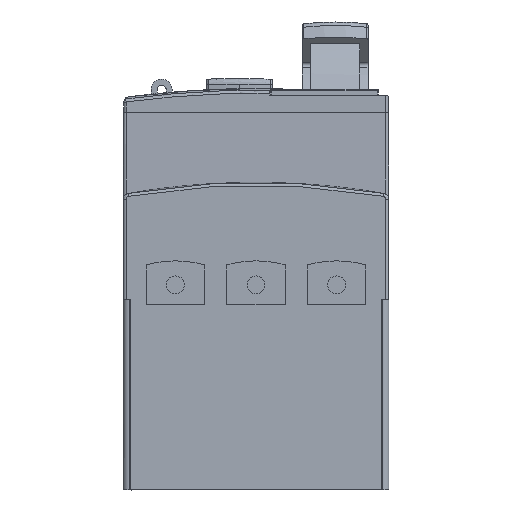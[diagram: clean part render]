
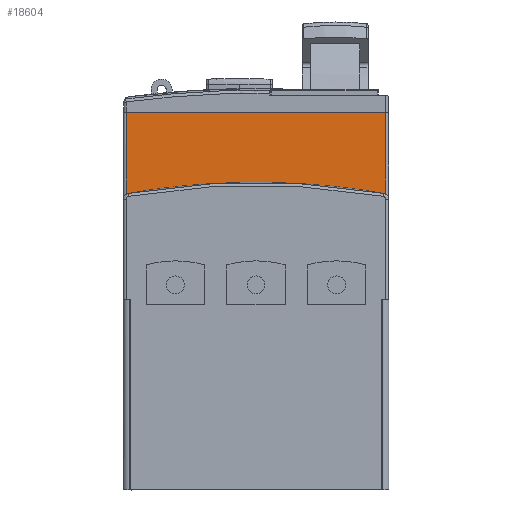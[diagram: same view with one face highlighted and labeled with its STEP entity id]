
A CAD part, front view. The second image highlights one B-rep face of the part: STEP entity #18604.
In plain terms, the highlighted planar face has unit normal (0, -1, 0.006).
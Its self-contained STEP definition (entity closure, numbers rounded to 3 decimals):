
#18594=AXIS2_PLACEMENT_3D('Plane Axis2P3D',#18591,#18592,#18593) ;
#722=CARTESIAN_POINT('Vertex',(21.422,-22.595,29.247)) ;
#728=CARTESIAN_POINT('Control Point',(21.422,-22.594,29.247)) ;
#729=CARTESIAN_POINT('Control Point',(10.817,-22.583,31.095)) ;
#730=CARTESIAN_POINT('Control Point',(0.,-22.58,31.724)) ;
#731=CARTESIAN_POINT('Control Point',(-10.817,-22.583,31.095)) ;
#732=CARTESIAN_POINT('Control Point',(-21.422,-22.594,29.247)) ;
#733=CARTESIAN_POINT('Vertex',(-21.422,-22.594,29.247)) ;
#967=CARTESIAN_POINT('Vertex',(21.75,-22.595,29.128)) ;
#971=CARTESIAN_POINT('Control Point',(21.75,-22.595,29.128)) ;
#972=CARTESIAN_POINT('Control Point',(21.689,-22.595,29.163)) ;
#973=CARTESIAN_POINT('Control Point',(21.625,-22.595,29.193)) ;
#974=CARTESIAN_POINT('Control Point',(21.559,-22.593,29.217)) ;
#975=CARTESIAN_POINT('Control Point',(21.491,-22.595,29.235)) ;
#976=CARTESIAN_POINT('Control Point',(21.422,-22.595,29.247)) ;
#999=CARTESIAN_POINT('Control Point',(-21.422,-22.594,29.247)) ;
#1000=CARTESIAN_POINT('Control Point',(-21.491,-22.594,29.235)) ;
#1001=CARTESIAN_POINT('Control Point',(-21.559,-22.593,29.217)) ;
#1002=CARTESIAN_POINT('Control Point',(-21.626,-22.596,29.193)) ;
#1003=CARTESIAN_POINT('Control Point',(-21.689,-22.594,29.163)) ;
#1004=CARTESIAN_POINT('Control Point',(-21.75,-22.594,29.128)) ;
#1005=CARTESIAN_POINT('Vertex',(-21.75,-22.594,29.128)) ;
#17756=CARTESIAN_POINT('Vertex',(-21.75,-22.515,42.77)) ;
#17759=CARTESIAN_POINT('Line Origine',(0.,-22.515,42.77)) ;
#17763=CARTESIAN_POINT('Vertex',(21.75,-22.515,42.77)) ;
#18158=CARTESIAN_POINT('Line Origine',(-21.75,-22.473,50.062)) ;
#18205=CARTESIAN_POINT('Line Origine',(21.75,-22.696,11.815)) ;
#18591=CARTESIAN_POINT('Axis2P3D Location',(-20.85,-22.509,43.8)) ;
#17760=DIRECTION('Vector Direction',(1.,0.,0.)) ;
#18159=DIRECTION('Vector Direction',(0.,-0.006,-1.)) ;
#18206=DIRECTION('Vector Direction',(0.,0.006,1.)) ;
#18592=DIRECTION('Axis2P3D Direction',(0.,-1.,0.006)) ;
#18593=DIRECTION('Axis2P3D XDirection',(-1.,0.,0.)) ;
#17761=VECTOR('Line Direction',#17760,1.) ;
#18160=VECTOR('Line Direction',#18159,1.) ;
#18207=VECTOR('Line Direction',#18206,1.) ;
#18597=ORIENTED_EDGE('',*,*,#17765,.F.) ;
#18598=ORIENTED_EDGE('',*,*,#18162,.T.) ;
#18599=ORIENTED_EDGE('',*,*,#1007,.T.) ;
#18600=ORIENTED_EDGE('',*,*,#735,.F.) ;
#18601=ORIENTED_EDGE('',*,*,#977,.T.) ;
#18602=ORIENTED_EDGE('',*,*,#18209,.T.) ;
#18604=ADVANCED_FACE('090114B_GV2M1',(#18603),#18595,.T.) ;
#727=B_SPLINE_CURVE_WITH_KNOTS('',4,(#728,#729,#730,#731,#732),.UNSPECIFIED.,.F.,.U.,(5,5),(0.,74.577),.UNSPECIFIED.) ;
#970=B_SPLINE_CURVE_WITH_KNOTS('',5,(#971,#972,#973,#974,#975,#976),.UNSPECIFIED.,.F.,.U.,(6,6),(0.,0.609),.UNSPECIFIED.) ;
#998=B_SPLINE_CURVE_WITH_KNOTS('',5,(#999,#1000,#1001,#1002,#1003,#1004),.UNSPECIFIED.,.F.,.U.,(6,6),(0.,0.608),.UNSPECIFIED.) ;
#735=EDGE_CURVE('',#723,#734,#727,.T.) ;
#977=EDGE_CURVE('',#723,#968,#970,.F.) ;
#1007=EDGE_CURVE('',#1006,#734,#998,.F.) ;
#17765=EDGE_CURVE('',#17757,#17764,#17762,.T.) ;
#18162=EDGE_CURVE('',#17757,#1006,#18161,.T.) ;
#18209=EDGE_CURVE('',#968,#17764,#18208,.T.) ;
#18596=EDGE_LOOP('',(#18597,#18598,#18599,#18600,#18601,#18602)) ;
#18603=FACE_OUTER_BOUND('',#18596,.T.) ;
#17762=LINE('Line',#17759,#17761) ;
#18161=LINE('Line',#18158,#18160) ;
#18208=LINE('Line',#18205,#18207) ;
#18595=PLANE('Plane',#18594) ;
#723=VERTEX_POINT('',#722) ;
#734=VERTEX_POINT('',#733) ;
#968=VERTEX_POINT('',#967) ;
#1006=VERTEX_POINT('',#1005) ;
#17757=VERTEX_POINT('',#17756) ;
#17764=VERTEX_POINT('',#17763) ;
